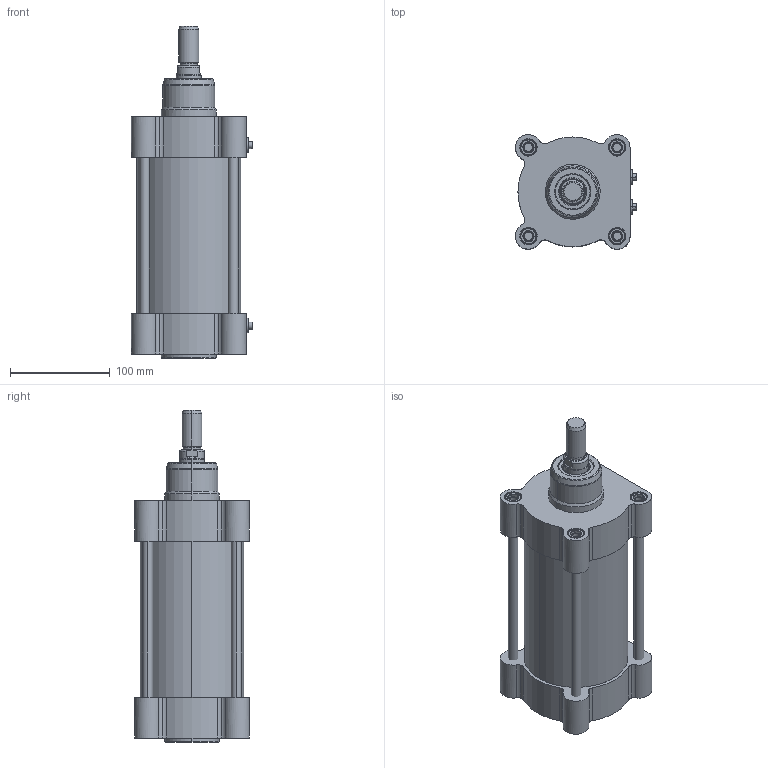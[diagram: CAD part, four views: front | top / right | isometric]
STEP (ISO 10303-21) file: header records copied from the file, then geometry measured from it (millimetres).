
FILE_DESCRIPTION (( 'STEP AP203' ), '1' );
FILE_NAME ('CTMI100-100.STEP', '2020-03-27T09:59:21', ( '' ), ( '' ), 'SwSTEP 2.0', 'SolidWorks 2019', '' );
FILE_SCHEMA (( 'CONFIG_CONTROL_DESIGN' ));
Length unit declared in the file: millimetre
Products named in the file (1): CTMI100-100
Bounding box: 121.5 x 115 x 333 mm (x, y, z)
Surface area: 284837.5 mm2 (no closed solid volume)
Topology: 0 solids, 20 shells, 706 faces, 1641 edges, 1016 vertices
Faces by surface type: cone 216, cylinder 201, plane 193, torus 80, bspline 16
Entity records: 32585 total; most frequent: CARTESIAN_POINT 18829, ORIENTED_EDGE 3244, DIRECTION 2039, EDGE_CURVE 1641, B_SPLINE_CURVE_WITH_KNOTS 1097, VERTEX_POINT 1016, AXIS2_PLACEMENT_3D 855, EDGE_LOOP 773
